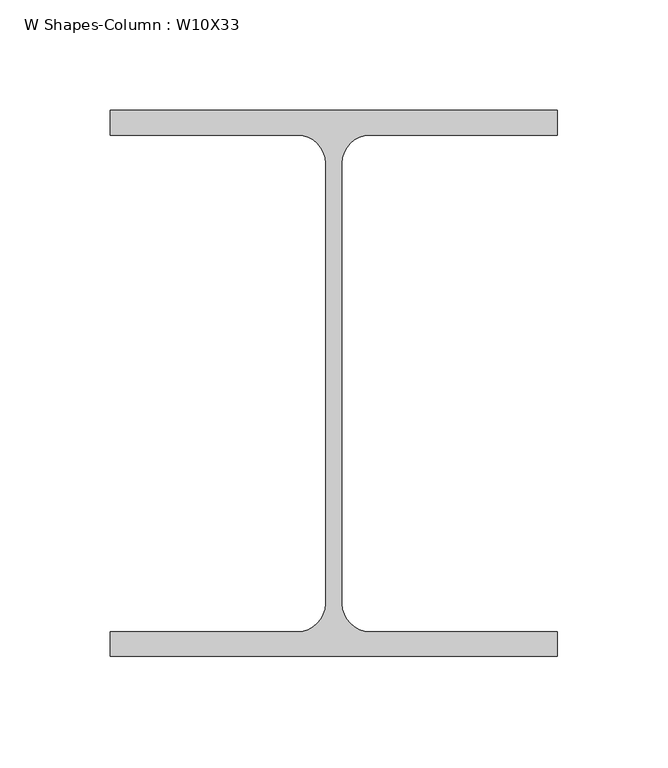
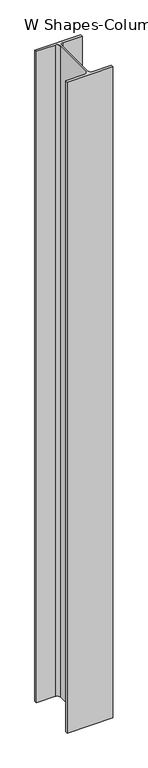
"""IFC4 building model written with IfcOpenShell, lengths in millimetres: column geometry, W Shapes-Column : W10X33."""

import ifcopenshell
import ifcopenshell.guid

model = None  # the IFC model being written
_history = None  # IfcOwnerHistory: only IFC2X3 demands one
_inside = {}  # id of a spatial element -> (the spatial element, [elements in it])
_under = {}  # id of a project, library or spatial element -> (it, [spatial elements below it])
_declared = {}  # id of a project -> (the project, [libraries it declares])
_typed = {}  # id of a type object -> (the type object, [elements of that type])
_made_of = {}  # id of a material, layer set ... -> (it, [elements and type objects made of it])


def new_model(schema):
    """Start an empty IFC model of exactly this schema.

    Asked for "IFC4X3", IfcOpenShell would pick the latest addendum, in which some entities
    have other attributes; the version numbers below select the first issue.
    IFC2X3 requires an IfcOwnerHistory on every rooted entity: one is made here for all.
    """
    global model, _history
    if schema == "IFC4X3":
        model = ifcopenshell.file(schema_version=(4, 3, 0, 0))
    else:
        model = ifcopenshell.file(schema=schema)
    _inside.clear()
    _under.clear()
    _declared.clear()
    _typed.clear()
    _made_of.clear()
    _history = None
    if model.schema == "IFC2X3":
        org = make("IfcOrganization", Name="unknown")
        user = make(
            "IfcPersonAndOrganization",
            ThePerson=make("IfcPerson", FamilyName="unknown"),
            TheOrganization=org,
        )
        app = make(
            "IfcApplication",
            ApplicationDeveloper=org,
            Version="unknown",
            ApplicationFullName="unknown",
            ApplicationIdentifier="unknown",
        )
        _history = make(
            "IfcOwnerHistory",
            OwningUser=user,
            OwningApplication=app,
            ChangeAction="ADDED",
            CreationDate=0,
        )
    return model


def make(cls, **values):
    """One entity of the class cls with the attributes given. An attribute that is None is left unset."""
    return model.create_entity(
        cls, **{name: value for name, value in values.items() if value is not None}
    )


def rooted(cls, **values):
    """An entity with a GlobalId (a new one), such as an element, a storey or a relation."""
    return make(cls, GlobalId=ifcopenshell.guid.new(), OwnerHistory=_history, **values)


def si_unit(unit_type, name, prefix=None):
    """IfcSIUnit, for example si_unit("LENGTHUNIT", "METRE", prefix="MILLI")."""
    return make("IfcSIUnit", UnitType=unit_type, Prefix=prefix, Name=name)


def assignment(units):
    """IfcUnitAssignment: the units of a project."""
    return None if units is None else make("IfcUnitAssignment", Units=units)


def point(xyz):
    """IfcCartesianPoint."""
    return None if xyz is None else make("IfcCartesianPoint", Coordinates=xyz)


def direction(xyz):
    """IfcDirection."""
    return None if xyz is None else make("IfcDirection", DirectionRatios=xyz)


def frame(location, z_axis=None, x_axis=None):
    """IfcAxis2Placement3D, a coordinate frame: its origin and axes. An axis left out is left unset."""
    return make(
        "IfcAxis2Placement3D",
        Location=point(location),
        Axis=direction(z_axis),
        RefDirection=direction(x_axis),
    )


def frame_2d(location, x_axis=None):
    """IfcAxis2Placement2D, a coordinate frame in the plane: its origin and x axis."""
    return make(
        "IfcAxis2Placement2D", Location=point(location), RefDirection=direction(x_axis)
    )


def origin():
    """The frame at (0, 0, 0) with its axes left unset."""
    return frame((0.0, 0.0, 0.0))


def origin_with_axes():
    """The frame at (0, 0, 0) with the z axis (0, 0, 1) and the x axis (1, 0, 0) written out."""
    return frame((0.0, 0.0, 0.0), z_axis=(0.0, 0.0, 1.0), x_axis=(1.0, 0.0, 0.0))


def place(relative_to, where):
    """IfcLocalPlacement: puts the frame where relative to a parent placement (None: the world)."""
    return make(
        "IfcLocalPlacement", PlacementRelTo=relative_to, RelativePlacement=where
    )


def context(
    kind, dimensions, precision=None, world=None, true_north=None, identifier=None
):
    """IfcGeometricRepresentationContext, for example the 3D "Model" context."""
    return make(
        "IfcGeometricRepresentationContext",
        ContextIdentifier=identifier,
        ContextType=kind,
        CoordinateSpaceDimension=dimensions,
        Precision=precision,
        WorldCoordinateSystem=world,
        TrueNorth=true_north,
    )


def project(units=None, contexts=None):
    """IfcProject with its units and contexts."""
    return rooted(
        "IfcProject",
        Name="project",
        RepresentationContexts=contexts,
        UnitsInContext=assignment(units),
    )


def spatial(cls, under=None, at=None, **own):
    """A site, building, storey or space (cls), placed at a placement, below another one or the project."""
    s = rooted(cls, ObjectPlacement=at, **own)
    if under is not None:
        _under.setdefault(under.id(), (under, []))[1].append(s)
    return s


def polyline(points):
    """IfcPolyline through the points."""
    return make("IfcPolyline", Points=[point(p) for p in points])


def circle_curve(where, radius):
    """IfcCircle in the frame where."""
    return make("IfcCircle", Position=where, Radius=radius)


def trimmed(basis, trim1, trim2, sense, master):
    """IfcTrimmedCurve: the piece of a basis curve between two trims."""
    return make(
        "IfcTrimmedCurve",
        BasisCurve=basis,
        Trim1=trim1,
        Trim2=trim2,
        SenseAgreement=sense,
        MasterRepresentation=master,
    )


def segment(curve, same_sense, transition):
    """IfcCompositeCurveSegment."""
    return make(
        "IfcCompositeCurveSegment",
        Transition=transition,
        SameSense=same_sense,
        ParentCurve=curve,
    )


def composite_curve(segments, self_intersect=None):
    """IfcCompositeCurve: segments joined end to end."""
    return make("IfcCompositeCurve", Segments=segments, SelfIntersect=self_intersect)


def outline(outer, holes=None, kind="AREA"):
    """IfcArbitraryClosedProfileDef: a profile drawn as a closed curve; with holes, ...WithVoids."""
    if holes is None:
        return make("IfcArbitraryClosedProfileDef", ProfileType=kind, OuterCurve=outer)
    return make(
        "IfcArbitraryProfileDefWithVoids",
        ProfileType=kind,
        OuterCurve=outer,
        InnerCurves=holes,
    )


def extrude(swept, where, along, depth):
    """IfcExtrudedAreaSolid: the profile swept, set in the frame where, extruded along a direction by depth."""
    return make(
        "IfcExtrudedAreaSolid",
        SweptArea=swept,
        Position=where,
        ExtrudedDirection=direction(along),
        Depth=depth,
    )


def shape(context_of_items, identifier, shape_type, items):
    """IfcShapeRepresentation: the items that make up one representation, for example the "Body"."""
    return make(
        "IfcShapeRepresentation",
        ContextOfItems=context_of_items,
        RepresentationIdentifier=identifier,
        RepresentationType=shape_type,
        Items=items,
    )


def source(mapping_origin, context_of_items, identifier, shape_type, items):
    """IfcRepresentationMap: a shape defined once, which mapped items show again and again."""
    return make(
        "IfcRepresentationMap",
        MappingOrigin=mapping_origin,
        MappedRepresentation=shape(context_of_items, identifier, shape_type, items),
    )


def transform(
    local_origin,
    x_axis=None,
    y_axis=None,
    z_axis=None,
    scale=None,
    scale2=None,
    scale3=None,
    uniform=True,
):
    """IfcCartesianTransformationOperator3D, or its non-uniform kind. x_axis, y_axis, z_axis: its Axis1, 2, 3."""
    if uniform:
        return make(
            "IfcCartesianTransformationOperator3D",
            Axis1=direction(x_axis),
            Axis2=direction(y_axis),
            LocalOrigin=point(local_origin),
            Scale=scale,
            Axis3=direction(z_axis),
        )
    return make(
        "IfcCartesianTransformationOperator3DnonUniform",
        Axis1=direction(x_axis),
        Axis2=direction(y_axis),
        LocalOrigin=point(local_origin),
        Scale=scale,
        Axis3=direction(z_axis),
        Scale2=scale2,
        Scale3=scale3,
    )


def mapped(mapping_source, mapping_target):
    """IfcMappedItem: shows the shape of a source again, moved by a transform."""
    return make(
        "IfcMappedItem", MappingSource=mapping_source, MappingTarget=mapping_target
    )


def made_of(thing, what):
    """Note that an element or type object is made of a material, layer set ...; save() writes the relation."""
    if what is not None:
        _made_of.setdefault(what.id(), (what, []))[1].append(thing)
    return thing


def element(
    cls,
    number,
    at=None,
    inside=None,
    cuts=None,
    type_object=None,
    material=None,
    context=None,
    identifier="Body",
    shape_type=None,
    held_by="IfcProductDefinitionShape",
    body=None,
    shapes=None,
    **own,
):
    """One element of the class cls, such as IfcWall. Its Tag is "e" and its number.

    at: its placement. inside: the storey or other place that contains it. cuts: it is an
    opening in that element (IfcRelVoidsElement). A single representation is given by context,
    identifier, shape_type and body (its items); several are given by shapes. held_by: the class
    of the entity that holds the representations. save() writes the other relations.
    """
    e = rooted(cls, Tag="e%d" % number, ObjectPlacement=at, **own)
    if body is not None:
        shapes = [shape(context, identifier, shape_type, body)]
    if shapes is not None:
        e.Representation = make(held_by, Representations=shapes)
    if inside is not None:
        _inside.setdefault(inside.id(), (inside, []))[1].append(e)
    if cuts is not None:
        rooted(
            "IfcRelVoidsElement", RelatingBuildingElement=cuts, RelatedOpeningElement=e
        )
    if type_object is not None:
        _typed.setdefault(type_object.id(), (type_object, []))[1].append(e)
    return made_of(e, material)


def aggregate(whole, parts):
    """IfcRelAggregates: a whole, such as a stair, and the parts it consists of."""
    return rooted("IfcRelAggregates", RelatingObject=whole, RelatedObjects=parts)


def save(model, path):
    """Write the relations noted so far, then the file.

    IfcRelAggregates (storeys below a building ...), IfcRelContainedInSpatialStructure (elements
    in a storey), IfcRelDefinesByType, IfcRelAssociatesMaterial and IfcRelDeclares: one each for
    every whole, place, type object, material and project.
    """
    for whole, parts in _under.values():
        aggregate(whole, parts)
    for where, things in _inside.values():
        rooted(
            "IfcRelContainedInSpatialStructure",
            RelatedElements=things,
            RelatingStructure=where,
        )
    for kind, things in _typed.values():
        rooted("IfcRelDefinesByType", RelatedObjects=things, RelatingType=kind)
    for what, things in _made_of.values():
        rooted("IfcRelAssociatesMaterial", RelatedObjects=things, RelatingMaterial=what)
    for by, libraries in _declared.values():
        rooted("IfcRelDeclares", RelatingContext=by, RelatedDefinitions=libraries)
    model.write(path)


def w_shapes_column_w10x33_31aeb65b(model_context):
    return source(origin(), model_context, "Body", "SweptSolid", [
        extrude(outline(composite_curve([segment(polyline([(101.092, 123.571), (101.092, 112.395), (16.383, 112.395)]), True, "CONTINUOUS"), segment(trimmed(circle_curve(frame_2d((16.383, 99.695)), 12.7), [point((16.383, 112.395))], [point((3.683, 99.695))], True, "CARTESIAN"), True, "CONTINUOUS"), segment(polyline([(3.683, 99.695), (3.683, -99.695)]), True, "CONTINUOUS"), segment(trimmed(circle_curve(frame_2d((16.383, -99.695)), 12.7), [point((3.683, -99.695))], [point((16.383, -112.395))], True, "CARTESIAN"), True, "CONTINUOUS"), segment(polyline([(16.383, -112.395), (101.092, -112.395), (101.092, -123.571), (-101.092, -123.571), (-101.092, -112.395), (-16.383, -112.395)]), True, "CONTINUOUS"), segment(trimmed(circle_curve(frame_2d((-16.383, -99.695)), 12.7), [point((-16.383, -112.395))], [point((-3.683, -99.695))], True, "CARTESIAN"), True, "CONTINUOUS"), segment(polyline([(-3.683, -99.695), (-3.683, 99.695)]), True, "CONTINUOUS"), segment(trimmed(circle_curve(frame_2d((-16.383, 99.695)), 12.7), [point((-3.683, 99.695))], [point((-16.383, 112.395))], True, "CARTESIAN"), True, "CONTINUOUS"), segment(polyline([(-16.383, 112.395), (-101.092, 112.395), (-101.092, 123.571), (101.092, 123.571)]), True, "CONTINUOUS")], self_intersect=False)), origin_with_axes(), (0.0, 0.0, 1.0), 3048.0),
    ])


if __name__ == "__main__":
    model = new_model("IFC4")
    model_context = context("Model", 3, world=origin())
    ifc_project = project(units=[si_unit("LENGTHUNIT", "METRE", prefix="MILLI")], contexts=[model_context])
    site = spatial("IfcSite", under=ifc_project)
    building = spatial("IfcBuilding", under=site)
    placement = place(None, origin())
    w_shapes_column_w10x33_shape = w_shapes_column_w10x33_31aeb65b(model_context)
    element("IfcColumn", 1, ObjectType="W Shapes-Column : W10X33", at=placement, inside=building, context=model_context, shape_type="MappedRepresentation", body=[
        mapped(w_shapes_column_w10x33_shape, transform((0.0, 0.0, 0.0), x_axis=(1.0, 0.0, 0.0), y_axis=(0.0, 1.0, 0.0), z_axis=(0.0, 0.0, 1.0))),
    ])
    save(model, "model.ifc")
